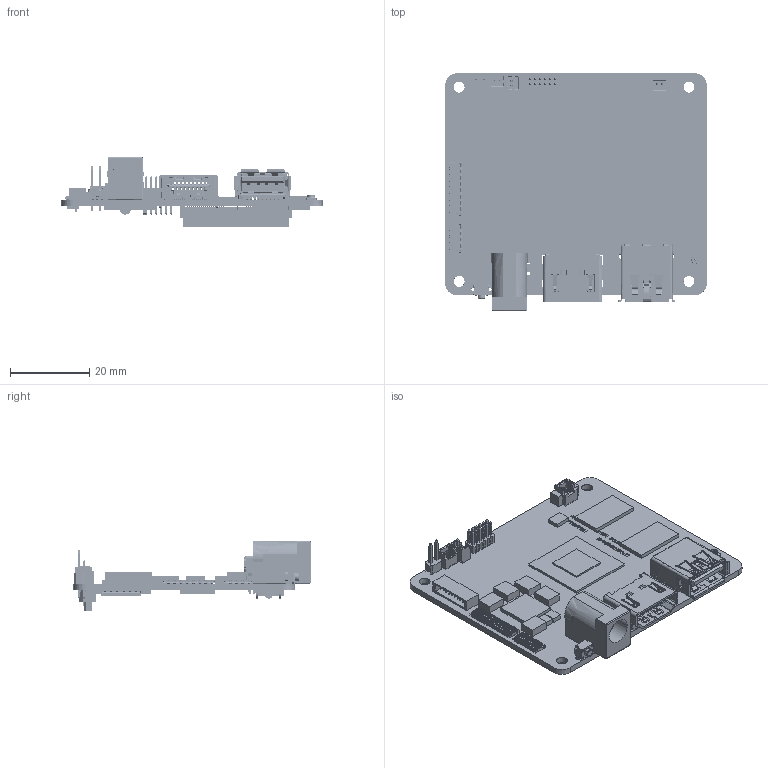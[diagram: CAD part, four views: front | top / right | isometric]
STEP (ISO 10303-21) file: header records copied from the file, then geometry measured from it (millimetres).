
FILE_DESCRIPTION((''),'2;1');
FILE_NAME('PCBA-CORE-UP_ASM','2017-08-03T',('EmmaHsu'),(''),'PRO/ENGINEER BY PARAMETRIC TECHNOLOGY CORPORATION, 2016010','PRO/ENGINEER BY PARAMETRIC TECHNOLOGY CORPORATION, 2016010','');
FILE_SCHEMA(('AUTOMOTIVE_DESIGN { 1 0 10303 214 1 1 1 1 }'));
Products named in the file (24): PCB-CORE-UP; 1654401932; 1655810131; CPU; 1652503109; 5022502191; 5022504191; 1601000990; 530470210; PIN-HEADER-SINGLE-2-02P; 1RS; FU49; A885; 1RS-Y58; MEMORY; MEMORY-1; AXK6S00547Y; AP6214A; U_FL-R-SMT-1; PIN-HEADER-2P0-06; 1655802020; 3RR31_1090-WITH_PAD; 930-00406-XXX-XX; PCBA-CORE-UP_ASM
Assembly tree (31 placements, depth 2):
  PCBA-CORE-UP_ASM
    PCB-CORE-UP
    1654401932
    1655810131
    CPU
    1652503109
    5022502191
    5022504191
    1601000990
    530470210  x2
    PIN-HEADER-SINGLE-2-02P
    1RS  x5
    FU49  x2
    A885
    1RS-Y58
    MEMORY  x2
    MEMORY-1  x2
    AXK6S00547Y
    AP6214A
    U_FL-R-SMT-1
    PIN-HEADER-2P0-06
    1655802020
    3RR31_1090-WITH_PAD
    930-00406-XXX-XX
Bounding box: 66 x 59.9 x 17.6 mm (x, y, z)
Surface area: 17725.4 mm2 (no closed solid volume)
Topology: 0 solids, 0 shells, 13529 faces, 80869 edges, 80866 vertices
Faces by surface type: bspline 13519, torus 6, sphere 4
Entity records: 1205030 total; most frequent: CARTESIAN_POINT 250721, DIRECTION 120059, TRIMMED_CURVE 115367, VECTOR 111415, LINE 111415, COMPOSITE_CURVE_SEGMENT 80121, DEFINITIONAL_REPRESENTATION 79196, PCURVE 79196
